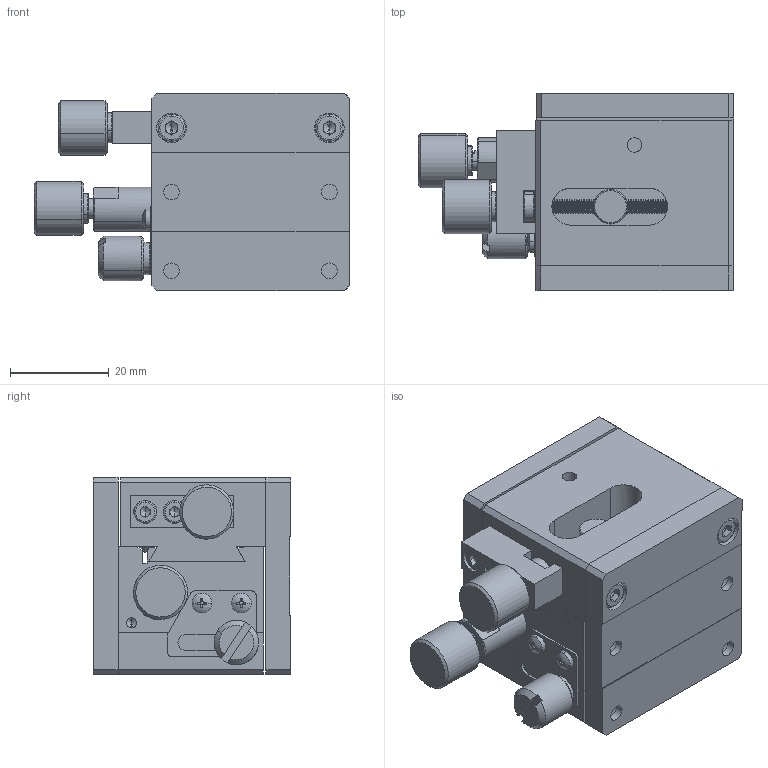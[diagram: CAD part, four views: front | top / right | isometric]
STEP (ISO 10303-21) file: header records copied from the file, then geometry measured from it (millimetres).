
FILE_DESCRIPTION (( 'STEP AP203' ), '1' );
FILE_NAME ('BWEE40.STEP', '2024-02-26T12:30:28', ( 'China' ), ( 'Microsoft' ), 'SwSTEP 2.0', 'SolidWorks 2024', '' );
FILE_SCHEMA (( 'CONFIG_CONTROL_DESIGN' ));
Products named in the file (1): BWEE40
Bounding box: 64 x 40 x 40 mm (x, y, z)
Volume: 62564.9 mm3; surface area: 34274 mm2
Topology: 27 solids, 27 shells, 949 faces, 2446 edges, 1554 vertices
Faces by surface type: cylinder 388, plane 384, cone 121, bspline 40, torus 12, sphere 4
Entity records: 134465 total; most frequent: CARTESIAN_POINT 111955, ORIENTED_EDGE 4788, DIRECTION 4442, EDGE_CURVE 2394, AXIS2_PLACEMENT_3D 1601, VERTEX_POINT 1554, VECTOR 1240, LINE 1240
